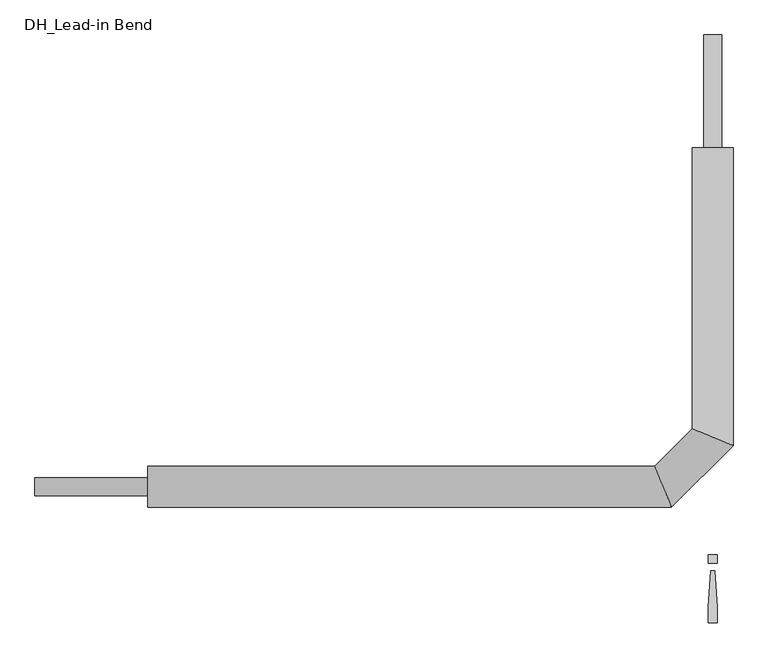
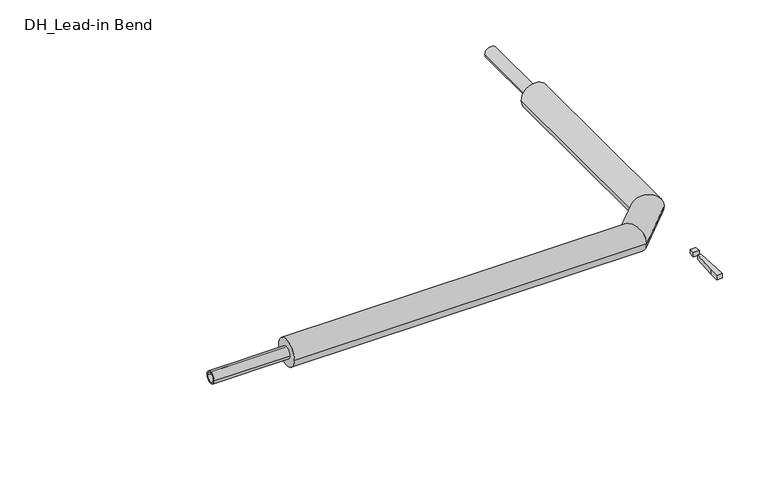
"""IFC4 building model written with IfcOpenShell, lengths in millimetres: pipe fitting geometry, DH_Lead-in Bend : INSULPEX UNO 7.4 DW."""

from ifc_helpers import new_model, si_unit, point, frame, origin, origin_with_axes, origin_2d, place, context, project, spatial, polyline, circle_curve, ellipse_curve, trimmed, segment, composite_curve, outline, extrude, source, transform, mapped, element, save
from ifc_brep_helpers import plane_surface, cylinder_surface, advanced_brep


def dh_lead_in_bend_61ed127e(model_context):
    return source(origin(), model_context, "Body", "SolidModel", [
        advanced_brep(
        [(-1250.0, -45.0, 0.0), (-1250.0, 45.0, 0.0), (-91.3603897, -45.0, 0.0), (-128.6396103, 45.0, 0.0), (45.0, 750.0, 0.0), (-45.0, 750.0, 0.0), (-45.0, 128.6396103, 0.0), (45.0, 91.3603897, 0.0)],
        [
            (0, 1, circle_curve(frame((-1250.0, 0.0, 0.0), z_axis=(-1.0, 0.0, 0.0), x_axis=(0.0, 1.0, 0.0)), 45.0)),
            (1, 0, circle_curve(frame((-1250.0, 0.0, 0.0), z_axis=(-1.0, 0.0, 0.0), x_axis=(0.0, 1.0, 0.0)), 45.0)),
            (0, 2),
            (2, 3, ellipse_curve(frame((-110.0, 0.0, 0.0), z_axis=(-0.9238795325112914, -0.3826834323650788, 0.0), x_axis=(-0.38268343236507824, 0.9238795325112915, 0.0)), 48.707649, 45.0)),
            (3, 1),
            (3, 2, ellipse_curve(frame((-110.0, 0.0, 0.0), z_axis=(-0.9238795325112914, -0.3826834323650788, 0.0), x_axis=(-0.38268343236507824, 0.9238795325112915, 0.0)), 48.707649, 45.0)),
            (4, 5, circle_curve(frame((0.0, 750.0, 0.0), z_axis=(0.0, 1.0, 0.0), x_axis=(-1.0, 0.0, 0.0)), 45.0)),
            (5, 4, circle_curve(frame((0.0, 750.0, 0.0), z_axis=(0.0, 1.0, 0.0), x_axis=(-1.0, 0.0, 0.0)), 45.0)),
            (6, 7, ellipse_curve(frame((0.0, 110.0, 0.0), z_axis=(0.38268343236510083, 0.9238795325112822, 0.0), x_axis=(0.9238795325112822, -0.3826834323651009, 0.0)), 48.707649, 45.0)),
            (7, 4),
            (5, 6),
            (7, 6, ellipse_curve(frame((0.0, 110.0, 0.0), z_axis=(0.38268343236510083, 0.9238795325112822, 0.0), x_axis=(0.9238795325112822, -0.3826834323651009, 0.0)), 48.707649, 45.0)),
            (2, 7),
            (6, 3),
        ],
        [
            plane_surface(frame((-1250.0, 0.0, 0.0), z_axis=(-1.0, 0.0, 0.0), x_axis=(0.0, 0.0, 1.0))),
            cylinder_surface(frame((-1250.0, 0.0, 0.0), z_axis=(-1.0, 0.0, 0.0), x_axis=(0.0, 1.0, 0.0)), 45.0),
            plane_surface(frame((0.0, 750.0, 0.0), z_axis=(0.0, 1.0, 0.0), x_axis=(0.0, 0.0, 1.0))),
            cylinder_surface(frame((0.0, 110.0, 0.0), z_axis=(0.0, -1.0, 0.0), x_axis=(-1.0, 0.0, 0.0)), 45.0),
            cylinder_surface(frame((-110.0, 0.0, 0.0), z_axis=(-0.7071067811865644, -0.7071067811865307, 0.0), x_axis=(-0.7071067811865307, 0.7071067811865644, 0.0)), 45.0),
        ],
        [
            (0, [[1, 2]]),
            (1, [[-1, 3, 4, 5]]),
            (1, [[-2, -5, 6, -3]]),
            (2, [[7, 8]]),
            (3, [[9, 10, -8, 11]]),
            (3, [[12, -11, -7, -10]]),
            (4, [[-4, 13, -9, 14]]),
            (4, [[-6, -14, -12, -13]]),
        ],
    ),
        extrude(outline(polyline([(4.7088895, -185.3166715), (9.4177791, -266.6553807), (9.4177791, -300.6844652), (-9.4177791, -300.6844652), (-9.4177791, -266.6553807), (-4.7088895, -185.3166715), (4.7088895, -185.3166715)])), origin_with_axes(), (0.0, 0.0, 1.0), 15.0),
        extrude(outline(polyline([(9.4177791, -150.0), (9.4177791, -168.8355582), (-9.4177791, -168.8355582), (-9.4177791, -150.0), (9.4177791, -150.0)])), origin_with_axes(), (0.0, 0.0, 1.0), 15.0),
        extrude(outline(composite_curve([segment(trimmed(circle_curve(origin_2d(), 20.0), [point((-20.0, 0.0))], [point((20.0, 0.0))], False, "CARTESIAN"), True, "CONTINUOUS"), segment(trimmed(circle_curve(origin_2d(), 20.0), [point((20.0, 0.0))], [point((-20.0, 0.0))], False, "CARTESIAN"), True, "CONTINUOUS")], self_intersect=False), holes=[composite_curve([segment(trimmed(circle_curve(origin_2d(), 14.5), [point((-14.5, 0.0))], [point((14.5, 0.0))], True, "CARTESIAN"), True, "CONTINUOUS"), segment(trimmed(circle_curve(origin_2d(), 14.5), [point((14.5, 0.0))], [point((-14.5, 0.0))], True, "CARTESIAN"), True, "CONTINUOUS")], self_intersect=False)]), frame((-1500.0, 0.0, 0.0), z_axis=(1.0, 0.0, 0.0), x_axis=(0.0, 1.0, 0.0)), (0.0, 0.0, 1.0), 250.0),
        extrude(outline(composite_curve([segment(trimmed(circle_curve(origin_2d(), 20.0), [point((0.0, 20.0))], [point((0.0, -20.0))], False, "CARTESIAN"), True, "CONTINUOUS"), segment(trimmed(circle_curve(origin_2d(), 20.0), [point((0.0, -20.0))], [point((0.0, 20.0))], False, "CARTESIAN"), True, "CONTINUOUS")], self_intersect=False), holes=[composite_curve([segment(trimmed(circle_curve(origin_2d(), 14.5), [point((0.0, 14.5))], [point((0.0, -14.5))], True, "CARTESIAN"), True, "CONTINUOUS"), segment(trimmed(circle_curve(origin_2d(), 14.5), [point((0.0, -14.5))], [point((0.0, 14.5))], True, "CARTESIAN"), True, "CONTINUOUS")], self_intersect=False)]), frame((0.0, 750.0, 0.0), z_axis=(0.0, 1.0, 0.0), x_axis=(0.0, 0.0, 1.0)), (0.0, 0.0, 1.0), 250.0),
    ])


if __name__ == "__main__":
    model = new_model("IFC4")
    model_context = context("Model", 3, world=origin())
    ifc_project = project(units=[si_unit("LENGTHUNIT", "METRE", prefix="MILLI")], contexts=[model_context])
    site = spatial("IfcSite", under=ifc_project)
    building = spatial("IfcBuilding", under=site)
    placement = place(None, origin())
    dh_lead_in_bend_shape = dh_lead_in_bend_61ed127e(model_context)
    element("IfcPipeFitting", 1, ObjectType="DH_Lead-in Bend : INSULPEX UNO 7.4 DW", at=placement, inside=building, context=model_context, shape_type="MappedRepresentation", body=[
        mapped(dh_lead_in_bend_shape, transform((0.0, 0.0, 0.0), x_axis=(1.0, 0.0, 0.0), y_axis=(0.0, 1.0, 0.0), z_axis=(0.0, 0.0, 1.0))),
    ])
    save(model, "model.ifc")
